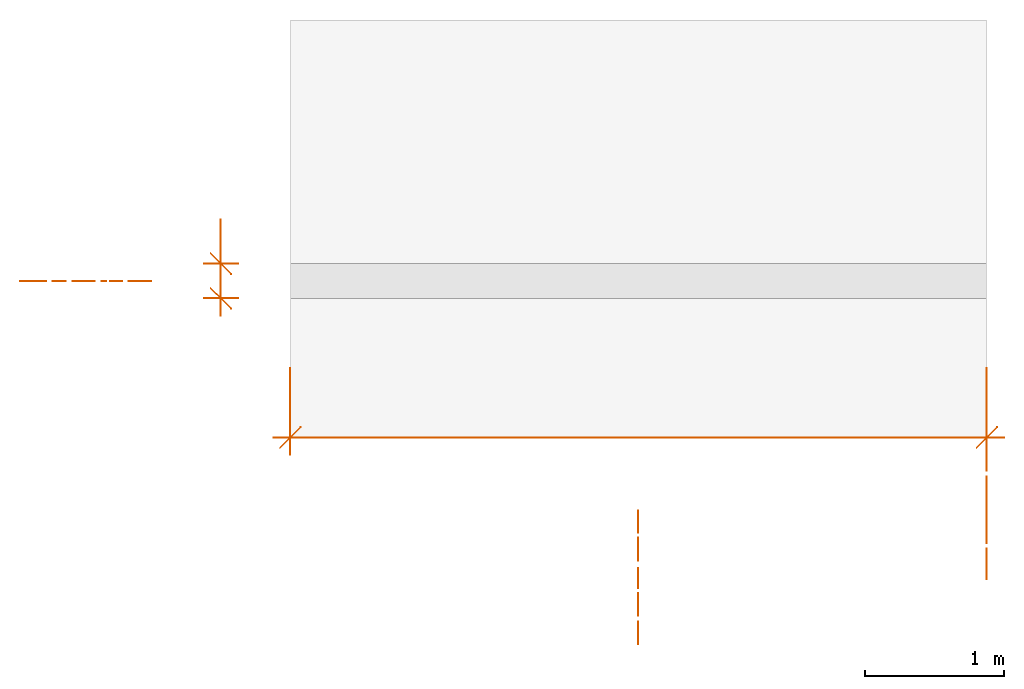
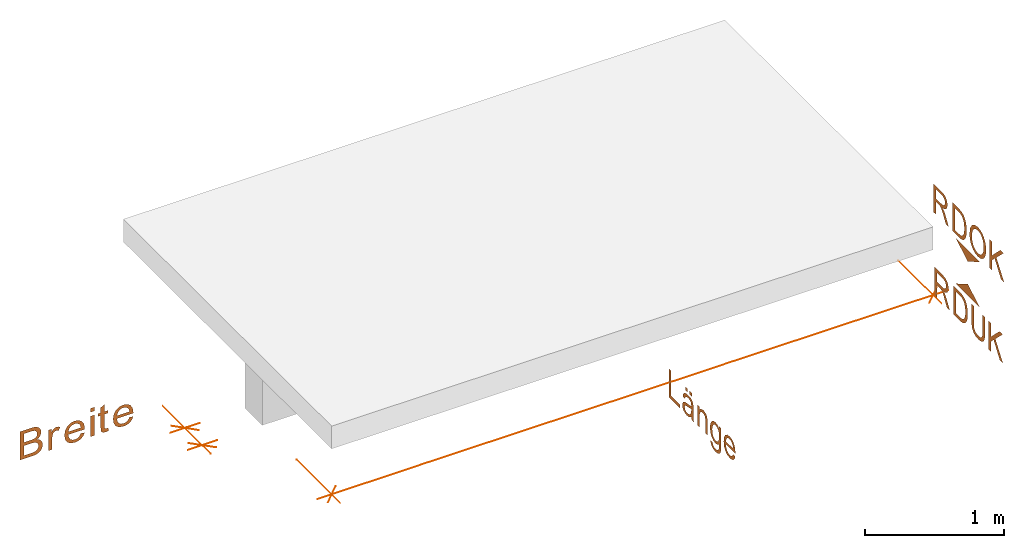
# One storey, part 2 of 2: 6 proxies, 6 elements without a shape of their own.
"""IFC4 building model written with IfcOpenShell, lengths in metres."""

from ifc_helpers import new_model, entity, si_unit, converted_unit, derived_unit, frame, origin, origin_with_axes, place, context, subcontext, project, spatial, open_shell, surface_model, source, transform, mapped, element, aggregate, save


model = new_model("IFC4")

# Units and contexts
model_context = context("Model", 3, precision=1e-05, world=origin())
body_context = subcontext(model_context, "Body", "Model", "MODEL_VIEW")
ifc_project = project(units=[si_unit("LENGTHUNIT", "METRE"), si_unit("AREAUNIT", "SQUARE_METRE"), si_unit("VOLUMEUNIT", "CUBIC_METRE"), si_unit("MASSUNIT", "GRAM", prefix="KILO"), converted_unit("PLANEANGLEUNIT", "DEGREE", entity("IfcPlaneAngleMeasure", 0.0174532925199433), si_unit("PLANEANGLEUNIT", "RADIAN"), dimensions=[0, 0, 0, 0, 0, 0, 0]), derived_unit("THERMALTRANSMITTANCEUNIT", [(si_unit("POWERUNIT", "WATT"), 1), (si_unit("THERMODYNAMICTEMPERATUREUNIT", "KELVIN"), -1), (si_unit("LENGTHUNIT", "METRE"), -2)]), derived_unit("VOLUMETRICFLOWRATEUNIT", [(si_unit("LENGTHUNIT", "METRE"), 3), (converted_unit("TIMEUNIT", "hour", entity("IfcTimeMeasure", 3600.0), si_unit("TIMEUNIT", "SECOND"), dimensions=[0, 0, 1, 0, 0, 0, 0]), -1), (si_unit("LENGTHUNIT", "METRE"), -1)])], contexts=[model_context])

# Site, building, storey
site_placement = place(None, origin())
site = spatial("IfcSite", under=ifc_project, at=site_placement, Name="Liegenschaft", CompositionType="ELEMENT")
building_placement = place(site_placement, origin())
building = spatial("IfcBuilding", under=site, at=building_placement, Name="Gebäude", CompositionType="ELEMENT")
storey_placement = place(building_placement, origin())
storey = spatial("IfcBuildingStorey", under=building, at=storey_placement, Name="Geschoss 01", CompositionType="ELEMENT", Elevation=0.0)

# Assembly, proxy
assembly_1_placement = place(storey_placement, origin())
assembly_1 = element("IfcElementAssembly", 1, at=assembly_1_placement, inside=storey, Name="SpatialDim_Group", PredefinedType="NOTDEFINED")
shared_shape_1 = source(origin_with_axes(), body_context, "Axis", "Curve3D", [
    entity("IfcPolyline", [entity("IfcCartesianPoint", [0.05, 0.05, 0.0]), entity("IfcCartesianPoint", [0.2, 0.2, 0.0])]),
    entity("IfcPolyline", [entity("IfcCartesianPoint", [0.125, 0.0, 0.0]), entity("IfcCartesianPoint", [0.125, 0.625, 0.0])]),
    entity("IfcPolyline", [entity("IfcCartesianPoint", [5.05, 0.05, 0.0]), entity("IfcCartesianPoint", [5.2, 0.2, 0.0])]),
    entity("IfcPolyline", [entity("IfcCartesianPoint", [5.125, 0.0, 0.0]), entity("IfcCartesianPoint", [5.125, 0.625, 0.0])]),
    entity("IfcPolyline", [entity("IfcCartesianPoint", [0.0, 0.125, 0.0]), entity("IfcCartesianPoint", [5.25, 0.125, 0.0])]),
])
proxy_1_placement = place(assembly_1_placement, frame((90.1703071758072, -2.12908619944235, -0.6)))
proxy_1 = element("IfcBuildingElementProxy", 2, at=proxy_1_placement, Name="macro", context=body_context, shape_type="MappedRepresentation", body=[
    mapped(shared_shape_1, transform((0.0, 0.0, 0.0), x_axis=(1.0, 0.0, 0.0), y_axis=(0.0, 1.0, 0.0), z_axis=(0.0, 0.0, 1.0), scale=1.0)),
])
aggregate(assembly_1, [proxy_1])

assembly_2_placement = place(storey_placement, origin())
assembly_2 = element("IfcElementAssembly", 3, at=assembly_2_placement, inside=storey, Name="SpatialDim_Group", PredefinedType="NOTDEFINED")
shared_shape_2 = source(origin_with_axes(), body_context, "Axis", "Curve3D", [
    entity("IfcPolyline", [entity("IfcCartesianPoint", [0.247, 0.05, 0.0]), entity("IfcCartesianPoint", [0.397, 0.2, 0.0])]),
    entity("IfcPolyline", [entity("IfcCartesianPoint", [0.322, 0.0, 0.0]), entity("IfcCartesianPoint", [0.322, 0.25, 0.0])]),
    entity("IfcPolyline", [entity("IfcCartesianPoint", [0.497, 0.05, 0.0]), entity("IfcCartesianPoint", [0.647, 0.2, 0.0])]),
    entity("IfcPolyline", [entity("IfcCartesianPoint", [0.572, 0.0, 0.0]), entity("IfcCartesianPoint", [0.572, 0.25, 0.0])]),
    entity("IfcPolyline", [entity("IfcCartesianPoint", [0.0, 0.125, 0.0]), entity("IfcCartesianPoint", [0.697, 0.125, 0.0])]),
])
proxy_2_placement = place(assembly_2_placement, frame((89.6703071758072, -0.432086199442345, -0.6), z_axis=(0.0, 0.0, 1.0), x_axis=(1.22464679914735e-16, -1.0, 0.0)))
proxy_2 = element("IfcBuildingElementProxy", 4, at=proxy_2_placement, Name="macro", context=body_context, shape_type="MappedRepresentation", body=[
    mapped(shared_shape_2, transform((0.0, 0.0, 0.0), x_axis=(1.0, 0.0, 0.0), y_axis=(0.0, 1.0, 0.0), z_axis=(0.0, 0.0, 1.0), scale=1.0)),
])
aggregate(assembly_2, [proxy_2])

assembly_3_placement = place(storey_placement, origin())
assembly_3 = element("IfcElementAssembly", 5, at=assembly_3_placement, inside=storey, Name="SpatialDim_Group", PredefinedType="NOTDEFINED")
shared_shape_3 = source(origin_with_axes(), body_context, "Body", "SurfaceModel", [
    surface_model("IfcShellBasedSurfaceModel", [(0.298675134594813, 1.442, 0.0), (0.298675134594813, 1.347, 0.0), (0.299925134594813, 1.32475, 0.0), (0.302675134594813, 1.307, 0.0), (0.307925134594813, 1.292, 0.0), (0.314675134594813, 1.28, 0.0), (0.325175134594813, 1.269375, 0.0), (0.338675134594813, 1.261, 0.0), (0.354300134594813, 1.255625, 0.0), (0.370675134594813, 1.254, 0.0), (0.391050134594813, 1.257, 0.0), (0.407675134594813, 1.266, 0.0), (0.421800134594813, 1.281625, 0.0), (0.430675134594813, 1.301, 0.0), (0.441050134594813, 1.28575, 0.0), (0.453675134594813, 1.275, 0.0), (0.468800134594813, 1.26825, 0.0), (0.484675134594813, 1.266, 0.0), (0.501925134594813, 1.26875, 0.0), (0.517675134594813, 1.276, 0.0), (0.531800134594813, 1.288, 0.0), (0.540675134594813, 1.303, 0.0), (0.546925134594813, 1.323375, 0.0), (0.548675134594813, 1.349, 0.0), (0.548675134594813, 1.442, 0.0), (0.443425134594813, 1.336875, 0.0), (0.442675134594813, 1.355, 0.0), (0.442675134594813, 1.409, 0.0), (0.519675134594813, 1.409, 0.0), (0.519675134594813, 1.359, 0.0), (0.518425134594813, 1.336375, 0.0), (0.515675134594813, 1.322, 0.0), (0.510675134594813, 1.312, 0.0), (0.502675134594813, 1.305, 0.0), (0.492425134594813, 1.3005, 0.0), (0.480675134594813, 1.299, 0.0), (0.468550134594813, 1.3005, 0.0), (0.458675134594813, 1.305, 0.0), (0.450675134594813, 1.313375, 0.0), (0.445675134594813, 1.324, 0.0), (0.327800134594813, 1.33375, 0.0), (0.327675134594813, 1.347, 0.0), (0.327675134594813, 1.409, 0.0), (0.413675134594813, 1.409, 0.0), (0.413675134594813, 1.352, 0.0), (0.412425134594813, 1.3305, 0.0), (0.409675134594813, 1.315, 0.0), (0.403675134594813, 1.303875, 0.0), (0.394675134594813, 1.295, 0.0), (0.383425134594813, 1.289625, 0.0), (0.370675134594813, 1.288, 0.0), (0.359425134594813, 1.289375, 0.0), (0.349675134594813, 1.293, 0.0), (0.341550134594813, 1.299125, 0.0), (0.335675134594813, 1.306, 0.0), (0.331050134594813, 1.314375, 0.0), (0.328675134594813, 1.325, 0.0)], [open_shell([[[0, 1, 2, 3, 4, 5, 6, 7, 8, 9, 10, 11, 12, 13, 14, 15, 16, 17, 18, 19, 20, 21, 22, 23, 24], [25, 26, 27, 28, 29, 30, 31, 32, 33, 34, 35, 36, 37, 38, 39], [40, 41, 42, 43, 44, 45, 46, 47, 48, 49, 50, 51, 52, 53, 54, 55, 56]]], orient=[[False, False, False]])]),
    surface_model("IfcShellBasedSurfaceModel", [(0.298675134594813, 1.206, 0.0), (0.298675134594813, 1.175, 0.0), (0.393675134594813, 1.175, 0.0), (0.412300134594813, 1.173625, 0.0), (0.428675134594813, 1.17, 0.0), (0.438675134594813, 1.165625, 0.0), (0.445675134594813, 1.159, 0.0), (0.450175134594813, 1.15, 0.0), (0.451675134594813, 1.141, 0.0), (0.450175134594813, 1.12975, 0.0), (0.445675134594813, 1.12, 0.0), (0.473675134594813, 1.109, 0.0), (0.481300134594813, 1.124875, 0.0), (0.483675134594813, 1.14, 0.0), (0.482175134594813, 1.15075, 0.0), (0.477675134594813, 1.16, 0.0), (0.468050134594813, 1.1695, 0.0), (0.451675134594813, 1.179, 0.0), (0.479675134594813, 1.179, 0.0), (0.479675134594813, 1.206, 0.0)], [open_shell([[[0, 1, 2, 3, 4, 5, 6, 7, 8, 9, 10, 11, 12, 13, 14, 15, 16, 17, 18, 19]]], orient=[[False]])]),
    surface_model("IfcShellBasedSurfaceModel", [(0.356675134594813, 0.936, 0.0), (0.340050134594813, 0.944875, 0.0), (0.328675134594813, 0.956, 0.0), (0.321925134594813, 0.969375, 0.0), (0.319675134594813, 0.985, 0.0), (0.323925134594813, 1.00675, 0.0), (0.335675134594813, 1.024, 0.0), (0.355300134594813, 1.035875, 0.0), (0.381675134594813, 1.041, 0.0), (0.381675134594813, 0.904, 0.0), (0.386425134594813, 0.904, 0.0), (0.389675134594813, 0.904, 0.0), (0.429425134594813, 0.909875, 0.0), (0.458675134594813, 0.927, 0.0), (0.477550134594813, 0.954, 0.0), (0.483675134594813, 0.987, 0.0), (0.477175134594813, 1.021625, 0.0), (0.458675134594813, 1.048, 0.0), (0.428050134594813, 1.066, 0.0), (0.387675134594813, 1.072, 0.0), (0.347925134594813, 1.066125, 0.0), (0.318675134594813, 1.049, 0.0), (0.300675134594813, 1.02075, 0.0), (0.294675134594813, 0.985, 0.0), (0.298425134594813, 0.955625, 0.0), (0.309675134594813, 0.933, 0.0), (0.328175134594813, 0.915625, 0.0), (0.352675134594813, 0.905, 0.0), (0.426300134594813, 0.93975, 0.0), (0.406675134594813, 0.936, 0.0), (0.406675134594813, 1.04, 0.0), (0.428300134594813, 1.034625, 0.0), (0.444675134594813, 1.024, 0.0), (0.455425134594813, 1.007, 0.0), (0.458675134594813, 0.987, 0.0), (0.454175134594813, 0.96525, 0.0), (0.440675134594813, 0.948, 0.0)], [open_shell([[[0, 1, 2, 3, 4, 5, 6, 7, 8, 9, 10, 11, 12, 13, 14, 15, 16, 17, 18, 19, 20, 21, 22, 23, 24, 25, 26, 27], [28, 29, 30, 31, 32, 33, 34, 35, 36]]], orient=[[False, False]])]),
    surface_model("IfcShellBasedSurfaceModel", [(0.298675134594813, 0.855, 0.0), (0.298675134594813, 0.824, 0.0), (0.479675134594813, 0.824, 0.0), (0.479675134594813, 0.855, 0.0), (0.514675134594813, 0.855, 0.0), (0.514675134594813, 0.824, 0.0), (0.548675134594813, 0.824, 0.0), (0.548675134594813, 0.855, 0.0)], [open_shell([[[0, 1, 2, 3]], [[4, 5, 6, 7]]], orient=[[False], [False]])]),
    surface_model("IfcShellBasedSurfaceModel", [(0.326675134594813, 0.709, 0.0), (0.325800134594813, 0.71675, 0.0), (0.325675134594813, 0.723, 0.0), (0.326300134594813, 0.72875, 0.0), (0.327675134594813, 0.733, 0.0), (0.330675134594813, 0.736625, 0.0), (0.333675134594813, 0.738, 0.0), (0.340300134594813, 0.73975, 0.0), (0.350675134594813, 0.74, 0.0), (0.455675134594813, 0.74, 0.0), (0.455675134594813, 0.709, 0.0), (0.479675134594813, 0.709, 0.0), (0.479675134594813, 0.74, 0.0), (0.542675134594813, 0.74, 0.0), (0.524675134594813, 0.771, 0.0), (0.479675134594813, 0.771, 0.0), (0.479675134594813, 0.794, 0.0), (0.455675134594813, 0.794, 0.0), (0.455675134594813, 0.771, 0.0), (0.351675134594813, 0.771, 0.0), (0.329175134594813, 0.76975, 0.0), (0.315675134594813, 0.767, 0.0), (0.307925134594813, 0.761625, 0.0), (0.301675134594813, 0.754, 0.0), (0.297675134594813, 0.742875, 0.0), (0.296675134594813, 0.728, 0.0), (0.297425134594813, 0.716875, 0.0), (0.299675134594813, 0.705, 0.0)], [open_shell([[[0, 1, 2, 3, 4, 5, 6, 7, 8, 9, 10, 11, 12, 13, 14, 15, 16, 17, 18, 19, 20, 21, 22, 23, 24, 25, 26, 27]]], orient=[[False]])]),
    surface_model("IfcShellBasedSurfaceModel", [(0.356675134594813, 0.532, 0.0), (0.340050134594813, 0.540875, 0.0), (0.328675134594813, 0.552, 0.0), (0.321925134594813, 0.565375, 0.0), (0.319675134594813, 0.581, 0.0), (0.323925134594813, 0.60275, 0.0), (0.335675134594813, 0.62, 0.0), (0.355300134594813, 0.631875, 0.0), (0.381675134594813, 0.637, 0.0), (0.381675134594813, 0.5, 0.0), (0.386425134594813, 0.5, 0.0), (0.389675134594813, 0.5, 0.0), (0.429425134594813, 0.505875, 0.0), (0.458675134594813, 0.523, 0.0), (0.477550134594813, 0.55, 0.0), (0.483675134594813, 0.583, 0.0), (0.477175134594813, 0.617625, 0.0), (0.458675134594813, 0.644, 0.0), (0.428050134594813, 0.662, 0.0), (0.387675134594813, 0.668, 0.0), (0.347925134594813, 0.662125, 0.0), (0.318675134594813, 0.645, 0.0), (0.300675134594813, 0.61675, 0.0), (0.294675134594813, 0.581, 0.0), (0.298425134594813, 0.551625, 0.0), (0.309675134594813, 0.529, 0.0), (0.328175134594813, 0.511625, 0.0), (0.352675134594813, 0.501, 0.0), (0.426300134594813, 0.53575, 0.0), (0.406675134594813, 0.532, 0.0), (0.406675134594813, 0.636, 0.0), (0.428300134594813, 0.630625, 0.0), (0.444675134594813, 0.62, 0.0), (0.455425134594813, 0.603, 0.0), (0.458675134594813, 0.583, 0.0), (0.454175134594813, 0.56125, 0.0), (0.440675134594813, 0.544, 0.0)], [open_shell([[[0, 1, 2, 3, 4, 5, 6, 7, 8, 9, 10, 11, 12, 13, 14, 15, 16, 17, 18, 19, 20, 21, 22, 23, 24, 25, 26, 27], [28, 29, 30, 31, 32, 33, 34, 35, 36]]], orient=[[False, False]])]),
])
proxy_3_placement = place(assembly_3_placement, frame((89.7953071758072, -0.879086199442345, -0.6), z_axis=(-1.22464679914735e-16, -1.0, 1.49975978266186e-32), x_axis=(1.22464679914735e-16, 0.0, 1.0)))
proxy_3 = element("IfcBuildingElementProxy", 6, at=proxy_3_placement, Name="macro", context=body_context, shape_type="MappedRepresentation", body=[
    mapped(shared_shape_3, transform((0.0, 0.0, 0.0), x_axis=(1.0, 0.0, 0.0), y_axis=(0.0, 1.0, 0.0), z_axis=(0.0, 0.0, 1.0), scale=1.0)),
])
aggregate(assembly_3, [proxy_3])

assembly_4_placement = place(storey_placement, origin())
assembly_4 = element("IfcElementAssembly", 7, at=assembly_4_placement, inside=storey, Name="SpatialDim_Group", PredefinedType="NOTDEFINED")
shared_shape_4 = source(origin_with_axes(), body_context, "Body", "SurfaceModel", [
    surface_model("IfcShellBasedSurfaceModel", [(0.298675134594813, 0.957, 0.0), (0.298675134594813, 0.801, 0.0), (0.327675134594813, 0.801, 0.0), (0.327675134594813, 0.924, 0.0), (0.548675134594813, 0.924, 0.0), (0.548675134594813, 0.957, 0.0)], [open_shell([[[0, 1, 2, 3, 4, 5]]], orient=[[False]])]),
    surface_model("IfcShellBasedSurfaceModel", [(0.501675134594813, 0.659, 0.0), (0.501675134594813, 0.627, 0.0), (0.535675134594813, 0.627, 0.0), (0.535675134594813, 0.659, 0.0), (0.501675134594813, 0.721, 0.0), (0.501675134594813, 0.689, 0.0), (0.535675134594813, 0.689, 0.0), (0.535675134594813, 0.721, 0.0), (0.309050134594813, 0.63075, 0.0), (0.298675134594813, 0.627, 0.0), (0.298675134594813, 0.596, 0.0), (0.309300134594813, 0.600625, 0.0), (0.320675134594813, 0.603, 0.0), (0.340175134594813, 0.60475, 0.0), (0.374675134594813, 0.605, 0.0), (0.415675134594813, 0.605, 0.0), (0.433050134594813, 0.605625, 0.0), (0.443675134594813, 0.607, 0.0), (0.455675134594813, 0.61075, 0.0), (0.464675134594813, 0.616, 0.0), (0.472425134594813, 0.625125, 0.0), (0.478675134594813, 0.638, 0.0), (0.482675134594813, 0.655125, 0.0), (0.483675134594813, 0.676, 0.0), (0.482175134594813, 0.6985, 0.0), (0.477675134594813, 0.718, 0.0), (0.469300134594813, 0.73375, 0.0), (0.458675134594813, 0.745, 0.0), (0.444675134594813, 0.753875, 0.0), (0.427675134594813, 0.759, 0.0), (0.423675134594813, 0.728, 0.0), (0.440925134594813, 0.721125, 0.0), (0.450675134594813, 0.712, 0.0), (0.456925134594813, 0.698625, 0.0), (0.458675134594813, 0.68, 0.0), (0.455925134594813, 0.659, 0.0), (0.448675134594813, 0.644, 0.0), (0.437425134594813, 0.63725, 0.0), (0.421675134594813, 0.635, 0.0), (0.418425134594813, 0.635, 0.0), (0.413675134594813, 0.635, 0.0), (0.407800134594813, 0.658125, 0.0), (0.402675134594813, 0.691, 0.0), (0.400300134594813, 0.70675, 0.0), (0.398675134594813, 0.718, 0.0), (0.394050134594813, 0.730625, 0.0), (0.388675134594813, 0.741, 0.0), (0.380425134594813, 0.750125, 0.0), (0.370675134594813, 0.757, 0.0), (0.358675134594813, 0.7615, 0.0), (0.346675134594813, 0.763, 0.0), (0.325550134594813, 0.75875, 0.0), (0.309675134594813, 0.747, 0.0), (0.298425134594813, 0.7265, 0.0), (0.294675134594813, 0.7, 0.0), (0.296175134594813, 0.68225, 0.0), (0.300675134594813, 0.666, 0.0), (0.308925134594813, 0.6495, 0.0), (0.321675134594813, 0.633, 0.0), (0.383675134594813, 0.656, 0.0), (0.389675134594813, 0.635, 0.0), (0.378675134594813, 0.635, 0.0), (0.360175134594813, 0.636375, 0.0), (0.347675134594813, 0.64, 0.0), (0.334925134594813, 0.649, 0.0), (0.326675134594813, 0.661, 0.0), (0.320425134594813, 0.67625, 0.0), (0.318675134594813, 0.693, 0.0), (0.320800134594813, 0.70925, 0.0), (0.326675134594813, 0.721, 0.0), (0.336425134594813, 0.72775, 0.0), (0.347675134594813, 0.73, 0.0), (0.355425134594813, 0.72875, 0.0), (0.361675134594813, 0.726, 0.0), (0.367800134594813, 0.719875, 0.0), (0.371675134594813, 0.713, 0.0), (0.375425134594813, 0.70175, 0.0), (0.377675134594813, 0.686, 0.0)], [open_shell([[[0, 1, 2, 3]], [[4, 5, 6, 7]], [[8, 9, 10, 11, 12, 13, 14, 15, 16, 17, 18, 19, 20, 21, 22, 23, 24, 25, 26, 27, 28, 29, 30, 31, 32, 33, 34, 35, 36, 37, 38, 39, 40, 41, 42, 43, 44, 45, 46, 47, 48, 49, 50, 51, 52, 53, 54, 55, 56, 57, 58], [59, 60, 61, 62, 63, 64, 65, 66, 67, 68, 69, 70, 71, 72, 73, 74, 75, 76, 77]]], orient=[[False], [False], [False, False]])]),
    surface_model("IfcShellBasedSurfaceModel", [(0.298675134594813, 0.547, 0.0), (0.298675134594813, 0.516, 0.0), (0.397675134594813, 0.516, 0.0), (0.426800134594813, 0.512375, 0.0), (0.444675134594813, 0.502, 0.0), (0.453675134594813, 0.48625, 0.0), (0.456675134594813, 0.469, 0.0), (0.455175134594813, 0.45775, 0.0), (0.450675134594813, 0.448, 0.0), (0.444425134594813, 0.4405, 0.0), (0.436675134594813, 0.436, 0.0), (0.424550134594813, 0.432875, 0.0), (0.408675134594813, 0.432, 0.0), (0.298675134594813, 0.432, 0.0), (0.298675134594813, 0.401, 0.0), (0.409675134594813, 0.401, 0.0), (0.428425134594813, 0.401625, 0.0), (0.439675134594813, 0.403, 0.0), (0.452300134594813, 0.40675, 0.0), (0.462675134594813, 0.412, 0.0), (0.470925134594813, 0.420875, 0.0), (0.477675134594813, 0.432, 0.0), (0.482175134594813, 0.447, 0.0), (0.483675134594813, 0.462, 0.0), (0.476175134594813, 0.495, 0.0), (0.453675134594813, 0.519, 0.0), (0.479675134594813, 0.519, 0.0), (0.479675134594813, 0.547, 0.0)], [open_shell([[[0, 1, 2, 3, 4, 5, 6, 7, 8, 9, 10, 11, 12, 13, 14, 15, 16, 17, 18, 19, 20, 21, 22, 23, 24, 25, 26, 27]]], orient=[[False]])]),
    surface_model("IfcShellBasedSurfaceModel", [(0.284675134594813, 0.359, 0.0), (0.258550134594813, 0.353875, 0.0), (0.240675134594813, 0.339, 0.0), (0.229425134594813, 0.315625, 0.0), (0.225675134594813, 0.287, 0.0), (0.228425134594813, 0.261375, 0.0), (0.235675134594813, 0.241, 0.0), (0.247800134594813, 0.224375, 0.0), (0.263675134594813, 0.213, 0.0), (0.287675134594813, 0.20675, 0.0), (0.323675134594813, 0.205, 0.0), (0.479675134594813, 0.205, 0.0), (0.479675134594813, 0.233, 0.0), (0.457675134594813, 0.233, 0.0), (0.477425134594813, 0.256875, 0.0), (0.483675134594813, 0.286, 0.0), (0.480675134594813, 0.3085, 0.0), (0.471675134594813, 0.328, 0.0), (0.456925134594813, 0.34375, 0.0), (0.437675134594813, 0.355, 0.0), (0.414425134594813, 0.362625, 0.0), (0.389675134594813, 0.365, 0.0), (0.355050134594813, 0.35975, 0.0), (0.325675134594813, 0.344, 0.0), (0.305425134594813, 0.319125, 0.0), (0.298675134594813, 0.286, 0.0), (0.304550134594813, 0.258375, 0.0), (0.321675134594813, 0.236, 0.0), (0.296925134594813, 0.235875, 0.0), (0.282675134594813, 0.238, 0.0), (0.269175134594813, 0.244, 0.0), (0.258675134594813, 0.253, 0.0), (0.252425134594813, 0.26725, 0.0), (0.250675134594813, 0.286, 0.0), (0.252925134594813, 0.304125, 0.0), (0.259675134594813, 0.317, 0.0), (0.268675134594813, 0.324375, 0.0), (0.280675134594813, 0.328, 0.0), (0.361675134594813, 0.33025, 0.0), (0.392675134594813, 0.334, 0.0), (0.421675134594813, 0.33025, 0.0), (0.441675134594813, 0.319, 0.0), (0.454675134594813, 0.303, 0.0), (0.458675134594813, 0.284, 0.0), (0.454300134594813, 0.2645, 0.0), (0.441675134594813, 0.248, 0.0), (0.420425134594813, 0.23675, 0.0), (0.391675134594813, 0.233, 0.0), (0.360800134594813, 0.236625, 0.0), (0.339675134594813, 0.247, 0.0), (0.327550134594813, 0.2635, 0.0), (0.323675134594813, 0.283, 0.0), (0.327925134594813, 0.30325, 0.0), (0.339675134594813, 0.319, 0.0)], [open_shell([[[0, 1, 2, 3, 4, 5, 6, 7, 8, 9, 10, 11, 12, 13, 14, 15, 16, 17, 18, 19, 20, 21, 22, 23, 24, 25, 26, 27, 28, 29, 30, 31, 32, 33, 34, 35, 36, 37], [38, 39, 40, 41, 42, 43, 44, 45, 46, 47, 48, 49, 50, 51, 52, 53]]], orient=[[False, False]])]),
    surface_model("IfcShellBasedSurfaceModel", [(0.356675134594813, 0.032, 0.0), (0.340050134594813, 0.040875, 0.0), (0.328675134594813, 0.052, 0.0), (0.321925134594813, 0.065375, 0.0), (0.319675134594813, 0.081, 0.0), (0.323925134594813, 0.10275, 0.0), (0.335675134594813, 0.12, 0.0), (0.355300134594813, 0.131875, 0.0), (0.381675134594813, 0.137, 0.0), (0.381675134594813, 0.0, 0.0), (0.386425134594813, 0.0, 0.0), (0.389675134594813, 0.0, 0.0), (0.429425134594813, 0.005875, 0.0), (0.458675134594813, 0.023, 0.0), (0.477550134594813, 0.05, 0.0), (0.483675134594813, 0.083, 0.0), (0.477175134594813, 0.117625, 0.0), (0.458675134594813, 0.144, 0.0), (0.428050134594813, 0.162, 0.0), (0.387675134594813, 0.168, 0.0), (0.347925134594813, 0.162125, 0.0), (0.318675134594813, 0.145, 0.0), (0.300675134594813, 0.11675, 0.0), (0.294675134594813, 0.081, 0.0), (0.298425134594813, 0.051625, 0.0), (0.309675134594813, 0.029, 0.0), (0.328175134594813, 0.011625, 0.0), (0.352675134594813, 0.001, 0.0), (0.426300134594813, 0.03575, 0.0), (0.406675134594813, 0.032, 0.0), (0.406675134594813, 0.136, 0.0), (0.428300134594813, 0.130625, 0.0), (0.444675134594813, 0.12, 0.0), (0.455425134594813, 0.103, 0.0), (0.458675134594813, 0.083, 0.0), (0.454175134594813, 0.06125, 0.0), (0.440675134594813, 0.044, 0.0)], [open_shell([[[0, 1, 2, 3, 4, 5, 6, 7, 8, 9, 10, 11, 12, 13, 14, 15, 16, 17, 18, 19, 20, 21, 22, 23, 24, 25, 26, 27], [28, 29, 30, 31, 32, 33, 34, 35, 36]]], orient=[[False, False]])]),
])
proxy_4_placement = place(assembly_4_placement, frame((92.7953071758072, -3.48708619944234, -0.6), z_axis=(-1.0, 0.0, 1.22464679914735e-16), x_axis=(1.22464679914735e-16, 0.0, 1.0)))
proxy_4 = element("IfcBuildingElementProxy", 8, at=proxy_4_placement, Name="macro", context=body_context, shape_type="MappedRepresentation", body=[
    mapped(shared_shape_4, transform((0.0, 0.0, 0.0), x_axis=(1.0, 0.0, 0.0), y_axis=(0.0, 1.0, 0.0), z_axis=(0.0, 0.0, 1.0), scale=1.0)),
])
aggregate(assembly_4, [proxy_4])

assembly_5_placement = place(storey_placement, origin())
assembly_5 = element("IfcElementAssembly", 9, at=assembly_5_placement, inside=storey, Name="SpatialDim_Group", PredefinedType="NOTDEFINED")
shared_shape_5 = source(origin_with_axes(), body_context, "Body", "SurfaceModel", [
    surface_model("IfcShellBasedSurfaceModel", [(0.0, 0.521, 0.0), (0.1, 0.694205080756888, 0.0), (0.1, 0.347794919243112, 0.0)], [open_shell([[[0, 1, 2]]], orient=[[False]])]),
    surface_model("IfcShellBasedSurfaceModel", [(0.135, 1.014, 0.0), (0.135, 0.981, 0.0), (0.246, 0.981, 0.0), (0.246, 0.943, 0.0), (0.2455, 0.931625, 0.0), (0.245, 0.924, 0.0), (0.241875, 0.9165, 0.0), (0.238, 0.909, 0.0), (0.231875, 0.901375, 0.0), (0.222, 0.893, 0.0), (0.207125, 0.88175, 0.0), (0.187, 0.869, 0.0), (0.135, 0.836, 0.0), (0.135, 0.795, 0.0), (0.203, 0.838, 0.0), (0.221875, 0.8515, 0.0), (0.237, 0.865, 0.0), (0.243, 0.873875, 0.0), (0.249, 0.885, 0.0), (0.2575, 0.853625, 0.0), (0.272, 0.832, 0.0), (0.29225, 0.819, 0.0), (0.317, 0.815, 0.0), (0.337125, 0.81775, 0.0), (0.355, 0.825, 0.0), (0.3695, 0.837875, 0.0), (0.378, 0.853, 0.0), (0.383375, 0.87475, 0.0), (0.385, 0.904, 0.0), (0.385, 1.014, 0.0), (0.276, 0.890625, 0.0), (0.275, 0.91, 0.0), (0.275, 0.981, 0.0), (0.357, 0.981, 0.0), (0.357, 0.902, 0.0), (0.354125, 0.87825, 0.0), (0.346, 0.862, 0.0), (0.332625, 0.852125, 0.0), (0.317, 0.849, 0.0), (0.30525, 0.851, 0.0), (0.295, 0.856, 0.0), (0.28525, 0.864, 0.0), (0.28, 0.875, 0.0)], [open_shell([[[0, 1, 2, 3, 4, 5, 6, 7, 8, 9, 10, 11, 12, 13, 14, 15, 16, 17, 18, 19, 20, 21, 22, 23, 24, 25, 26, 27, 28, 29], [30, 31, 32, 33, 34, 35, 36, 37, 38, 39, 40, 41, 42]]], orient=[[False, False]])]),
    surface_model("IfcShellBasedSurfaceModel", [(0.135, 0.742, 0.0), (0.135, 0.653, 0.0), (0.13625, 0.631125, 0.0), (0.139, 0.613, 0.0), (0.145125, 0.5965, 0.0), (0.152, 0.583, 0.0), (0.161875, 0.57125, 0.0), (0.174, 0.561, 0.0), (0.191, 0.551, 0.0), (0.211, 0.544, 0.0), (0.234875, 0.538625, 0.0), (0.261, 0.537, 0.0), (0.29325, 0.53975, 0.0), (0.321, 0.547, 0.0), (0.345125, 0.558875, 0.0), (0.364, 0.576, 0.0), (0.374375, 0.5925, 0.0), (0.381, 0.612, 0.0), (0.384125, 0.6315, 0.0), (0.385, 0.657, 0.0), (0.385, 0.742, 0.0), (0.165, 0.63475, 0.0), (0.164, 0.656, 0.0), (0.164, 0.709, 0.0), (0.356, 0.709, 0.0), (0.356, 0.657, 0.0), (0.354625, 0.6315, 0.0), (0.351, 0.615, 0.0), (0.339875, 0.597625, 0.0), (0.322, 0.584, 0.0), (0.2965, 0.574125, 0.0), (0.262, 0.571, 0.0), (0.234875, 0.5725, 0.0), (0.213, 0.577, 0.0), (0.194875, 0.585375, 0.0), (0.182, 0.596, 0.0), (0.174, 0.605875, 0.0), (0.169, 0.618, 0.0)], [open_shell([[[0, 1, 2, 3, 4, 5, 6, 7, 8, 9, 10, 11, 12, 13, 14, 15, 16, 17, 18, 19, 20], [21, 22, 23, 24, 25, 26, 27, 28, 29, 30, 31, 32, 33, 34, 35, 36, 37]]], orient=[[False, False]])]),
    surface_model("IfcShellBasedSurfaceModel", [(0.22475, 0.492375, 0.0), (0.194, 0.482, 0.0), (0.167625, 0.464, 0.0), (0.148, 0.44, 0.0), (0.135, 0.41, 0.0), (0.131, 0.377, 0.0), (0.13475, 0.3455, 0.0), (0.146, 0.317, 0.0), (0.165625, 0.291625, 0.0), (0.192, 0.273, 0.0), (0.224125, 0.26175, 0.0), (0.26, 0.258, 0.0), (0.29525, 0.26175, 0.0), (0.326, 0.273, 0.0), (0.352875, 0.291, 0.0), (0.373, 0.315, 0.0), (0.385125, 0.344125, 0.0), (0.389, 0.377, 0.0), (0.380125, 0.424875, 0.0), (0.354, 0.463, 0.0), (0.311875, 0.48775, 0.0), (0.257, 0.496, 0.0), (0.216875, 0.456, 0.0), (0.256, 0.462, 0.0), (0.30425, 0.4555, 0.0), (0.336, 0.437, 0.0), (0.354, 0.40925, 0.0), (0.36, 0.377, 0.0), (0.357, 0.353, 0.0), (0.348, 0.332, 0.0), (0.332375, 0.31475, 0.0), (0.313, 0.302, 0.0), (0.288, 0.294375, 0.0), (0.26, 0.292, 0.0), (0.217375, 0.298, 0.0), (0.186, 0.316, 0.0), (0.16625, 0.3435, 0.0), (0.16, 0.377, 0.0), (0.166625, 0.410875, 0.0), (0.186, 0.438, 0.0)], [open_shell([[[0, 1, 2, 3, 4, 5, 6, 7, 8, 9, 10, 11, 12, 13, 14, 15, 16, 17, 18, 19, 20, 21], [22, 23, 24, 25, 26, 27, 28, 29, 30, 31, 32, 33, 34, 35, 36, 37, 38, 39]]], orient=[[False, False]])]),
    surface_model("IfcShellBasedSurfaceModel", [(0.135, 0.207, 0.0), (0.135, 0.174, 0.0), (0.222, 0.174, 0.0), (0.261, 0.134, 0.0), (0.135, 0.0439999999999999, 0.0), (0.135, 0.0, 0.0), (0.284, 0.11, 0.0), (0.385, 0.006, 0.0), (0.385, 0.0509999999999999, 0.0), (0.263, 0.174, 0.0), (0.385, 0.174, 0.0), (0.385, 0.207, 0.0)], [open_shell([[[0, 1, 2, 3, 4, 5, 6, 7, 8, 9, 10, 11]]], orient=[[False]])]),
])
proxy_5_placement = place(assembly_5_placement, frame((95.2953071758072, -3.02508619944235, 0.0), z_axis=(-1.0, 0.0, 1.22464679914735e-16), x_axis=(1.22464679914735e-16, 0.0, 1.0)))
proxy_5 = element("IfcBuildingElementProxy", 10, at=proxy_5_placement, Name="RDOK", context=body_context, shape_type="MappedRepresentation", body=[
    mapped(shared_shape_5, transform((0.0, 0.0, 0.0), x_axis=(1.0, 0.0, 0.0), y_axis=(0.0, 1.0, 0.0), z_axis=(0.0, 0.0, 1.0), scale=1.0)),
])
aggregate(assembly_5, [proxy_5])

assembly_6_placement = place(storey_placement, origin())
assembly_6 = element("IfcElementAssembly", 11, at=assembly_6_placement, inside=storey, Name="SpatialDim_Group", PredefinedType="NOTDEFINED")
shared_shape_6 = source(origin_with_axes(), body_context, "Body", "SurfaceModel", [
    surface_model("IfcShellBasedSurfaceModel", [(0.393, 0.506, 0.0), (0.293, 0.679205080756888, 0.0), (0.293, 0.332794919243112, 0.0)], [open_shell([[[0, 1, 2]]], orient=[[False]])]),
    surface_model("IfcShellBasedSurfaceModel", [(0.00399999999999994, 0.984, 0.0), (0.00399999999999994, 0.951, 0.0), (0.115, 0.951, 0.0), (0.115, 0.913, 0.0), (0.1145, 0.901625, 0.0), (0.114, 0.894, 0.0), (0.110875, 0.8865, 0.0), (0.107, 0.879, 0.0), (0.100875, 0.871375, 0.0), (0.0909999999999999, 0.863, 0.0), (0.0761249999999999, 0.85175, 0.0), (0.0559999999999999, 0.839, 0.0), (0.00399999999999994, 0.806, 0.0), (0.004, 0.765, 0.0), (0.0719999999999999, 0.808, 0.0), (0.0908749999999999, 0.8215, 0.0), (0.106, 0.835, 0.0), (0.112, 0.843875, 0.0), (0.118, 0.855, 0.0), (0.1265, 0.823625, 0.0), (0.141, 0.802, 0.0), (0.16125, 0.789, 0.0), (0.186, 0.785, 0.0), (0.206125, 0.78775, 0.0), (0.224, 0.795, 0.0), (0.2385, 0.807875, 0.0), (0.247, 0.823, 0.0), (0.252375, 0.84475, 0.0), (0.254, 0.874, 0.0), (0.254, 0.984, 0.0), (0.145, 0.860625, 0.0), (0.144, 0.88, 0.0), (0.144, 0.951, 0.0), (0.226, 0.951, 0.0), (0.226, 0.872, 0.0), (0.223125, 0.84825, 0.0), (0.215, 0.832, 0.0), (0.201625, 0.822125, 0.0), (0.186, 0.819, 0.0), (0.17425, 0.821, 0.0), (0.164, 0.826, 0.0), (0.15425, 0.834, 0.0), (0.149, 0.845, 0.0)], [open_shell([[[0, 1, 2, 3, 4, 5, 6, 7, 8, 9, 10, 11, 12, 13, 14, 15, 16, 17, 18, 19, 20, 21, 22, 23, 24, 25, 26, 27, 28, 29], [30, 31, 32, 33, 34, 35, 36, 37, 38, 39, 40, 41, 42]]], orient=[[False, False]])]),
    surface_model("IfcShellBasedSurfaceModel", [(0.004, 0.712, 0.0), (0.004, 0.623, 0.0), (0.00525, 0.601125, 0.0), (0.008, 0.583, 0.0), (0.014125, 0.5665, 0.0), (0.021, 0.553, 0.0), (0.030875, 0.54125, 0.0), (0.043, 0.531, 0.0), (0.06, 0.521, 0.0), (0.08, 0.514, 0.0), (0.103875, 0.508625, 0.0), (0.13, 0.507, 0.0), (0.16225, 0.50975, 0.0), (0.19, 0.517, 0.0), (0.214125, 0.528875, 0.0), (0.233, 0.546, 0.0), (0.243375, 0.5625, 0.0), (0.25, 0.582, 0.0), (0.253125, 0.6015, 0.0), (0.254, 0.627, 0.0), (0.254, 0.712, 0.0), (0.034, 0.60475, 0.0), (0.033, 0.626, 0.0), (0.033, 0.679, 0.0), (0.225, 0.679, 0.0), (0.225, 0.627, 0.0), (0.223625, 0.6015, 0.0), (0.22, 0.585, 0.0), (0.208875, 0.567625, 0.0), (0.191, 0.554, 0.0), (0.1655, 0.544125, 0.0), (0.131, 0.541, 0.0), (0.103875, 0.5425, 0.0), (0.082, 0.547, 0.0), (0.063875, 0.555375, 0.0), (0.051, 0.566, 0.0), (0.043, 0.575875, 0.0), (0.038, 0.588, 0.0)], [open_shell([[[0, 1, 2, 3, 4, 5, 6, 7, 8, 9, 10, 11, 12, 13, 14, 15, 16, 17, 18, 19, 20], [21, 22, 23, 24, 25, 26, 27, 28, 29, 30, 31, 32, 33, 34, 35, 36, 37]]], orient=[[False, False]])]),
    surface_model("IfcShellBasedSurfaceModel", [(0.254, 0.292, 0.0), (0.111, 0.292, 0.0), (0.071125, 0.29575, 0.0), (0.047, 0.307, 0.0), (0.034875, 0.32725, 0.0), (0.031, 0.358, 0.0), (0.033125, 0.3775, 0.0), (0.039, 0.394, 0.0), (0.0495, 0.40625, 0.0), (0.063, 0.414, 0.0), (0.0825, 0.4185, 0.0), (0.111, 0.42, 0.0), (0.254, 0.42, 0.0), (0.254, 0.454, 0.0), (0.11, 0.454, 0.0), (0.074, 0.45125, 0.0), (0.047, 0.444, 0.0), (0.0265, 0.4315, 0.0), (0.012, 0.413, 0.0), (0.003, 0.386625, 0.0), (0.0, 0.355, 0.0), (0.003625, 0.32225, 0.0), (0.0140000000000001, 0.297, 0.0), (0.0305000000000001, 0.278125, 0.0), (0.0500000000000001, 0.266, 0.0), (0.07625, 0.25975, 0.0), (0.11, 0.258, 0.0), (0.254, 0.258, 0.0)], [open_shell([[[0, 1, 2, 3, 4, 5, 6, 7, 8, 9, 10, 11, 12, 13, 14, 15, 16, 17, 18, 19, 20, 21, 22, 23, 24, 25, 26, 27]]], orient=[[False]])]),
    surface_model("IfcShellBasedSurfaceModel", [(0.00400000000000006, 0.207, 0.0), (0.00400000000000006, 0.174, 0.0), (0.0910000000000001, 0.174, 0.0), (0.13, 0.134, 0.0), (0.00400000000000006, 0.044, 0.0), (0.00400000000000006, 0.0, 0.0), (0.153, 0.11, 0.0), (0.254, 0.006, 0.0), (0.254, 0.051, 0.0), (0.132, 0.174, 0.0), (0.254, 0.174, 0.0), (0.254, 0.207, 0.0)], [open_shell([[[0, 1, 2, 3, 4, 5, 6, 7, 8, 9, 10, 11]]], orient=[[False]])]),
])
proxy_6_placement = place(assembly_6_placement, frame((95.2953071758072, -3.01008619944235, -0.593), z_axis=(-1.0, 0.0, 1.22464679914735e-16), x_axis=(1.22464679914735e-16, 0.0, 1.0)))
proxy_6 = element("IfcBuildingElementProxy", 12, at=proxy_6_placement, Name="RDUK", context=body_context, shape_type="MappedRepresentation", body=[
    mapped(shared_shape_6, transform((0.0, 0.0, 0.0), x_axis=(1.0, 0.0, 0.0), y_axis=(0.0, 1.0, 0.0), z_axis=(0.0, 0.0, 1.0), scale=1.0)),
])
aggregate(assembly_6, [proxy_6])

save(model, "model.ifc")
